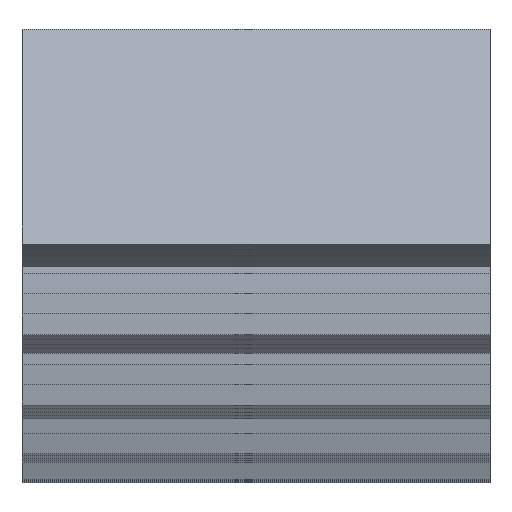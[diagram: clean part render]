
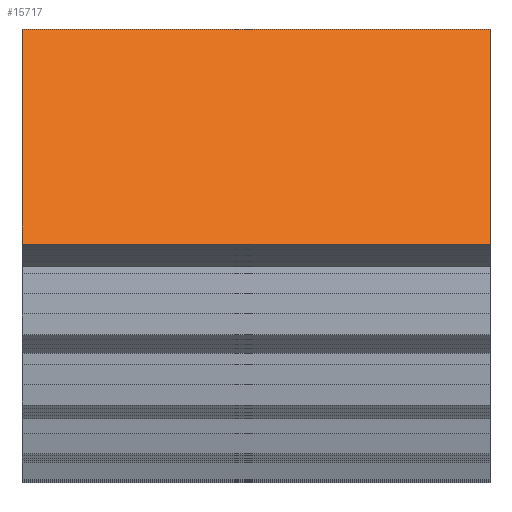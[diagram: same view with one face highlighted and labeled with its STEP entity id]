
A CAD part, top view. The second image highlights one B-rep face of the part: STEP entity #15717.
In plain terms, the highlighted planar face has unit normal (0, 0.529, 0.849).
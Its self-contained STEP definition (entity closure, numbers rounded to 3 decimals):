
#32 = PLANE('',#33);
#33 = AXIS2_PLACEMENT_3D('',#34,#35,#36);
#34 = CARTESIAN_POINT('',(6.5,0.,0.));
#35 = DIRECTION('',(1.,0.,0.));
#36 = DIRECTION('',(0.,0.998,-0.06));
#111 = VERTEX_POINT('',#112);
#112 = CARTESIAN_POINT('',(6.5,-28.858,17.978));
#131 = CYLINDRICAL_SURFACE('',#132,34.);
#132 = AXIS2_PLACEMENT_3D('',#133,#134,#135);
#133 = CARTESIAN_POINT('',(5.5,0.,0.));
#134 = DIRECTION('',(-1.,-0.,-0.));
#135 = DIRECTION('',(0.,1.,0.));
#143 = EDGE_CURVE('',#144,#111,#146,.T.);
#144 = VERTEX_POINT('',#145);
#145 = CARTESIAN_POINT('',(6.5,-34.375,21.414));
#146 = SURFACE_CURVE('',#147,(#151,#157),.PCURVE_S1.);
#147 = LINE('',#148,#149);
#148 = CARTESIAN_POINT('',(6.5,0.,0.));
#149 = VECTOR('',#150,1.);
#150 = DIRECTION('',(0.,0.849,-0.529));
#151 = PCURVE('',#32,#152);
#152 = DEFINITIONAL_REPRESENTATION('',(#153),#156);
#153 = B_SPLINE_CURVE_WITH_KNOTS('',1,(#154,#155),.UNSPECIFIED.,.F.,.F.,
  (2,2),(-46.067,0.),.PIECEWISE_BEZIER_KNOTS.);
#154 = CARTESIAN_POINT('',(-40.5,21.953));
#155 = CARTESIAN_POINT('',(0.,0.));
#156 = ( GEOMETRIC_REPRESENTATION_CONTEXT(2) 
PARAMETRIC_REPRESENTATION_CONTEXT() REPRESENTATION_CONTEXT('2D SPACE',''
  ) );
#157 = PCURVE('',#158,#163);
#158 = PLANE('',#159);
#159 = AXIS2_PLACEMENT_3D('',#160,#161,#162);
#160 = CARTESIAN_POINT('',(5.5,0.,0.));
#161 = DIRECTION('',(0.,-0.529,-0.849));
#162 = DIRECTION('',(0.,-0.849,0.529));
#163 = DEFINITIONAL_REPRESENTATION('',(#164),#167);
#164 = B_SPLINE_CURVE_WITH_KNOTS('',1,(#165,#166),.UNSPECIFIED.,.F.,.F.,
  (2,2),(-46.067,0.),.PIECEWISE_BEZIER_KNOTS.);
#165 = CARTESIAN_POINT('',(46.067,-1.));
#166 = CARTESIAN_POINT('',(0.,-1.));
#167 = ( GEOMETRIC_REPRESENTATION_CONTEXT(2) 
PARAMETRIC_REPRESENTATION_CONTEXT() REPRESENTATION_CONTEXT('2D SPACE',''
  ) );
#185 = PLANE('',#186);
#186 = AXIS2_PLACEMENT_3D('',#187,#188,#189);
#187 = CARTESIAN_POINT('',(6.5,-34.354,21.449));
#188 = DIRECTION('',(0.,0.85,-0.527));
#189 = DIRECTION('',(0.,-0.527,-0.85));
#5837 = PLANE('',#5838);
#5838 = AXIS2_PLACEMENT_3D('',#5839,#5840,#5841);
#5839 = CARTESIAN_POINT('',(18.5,0.,0.)
  );
#5840 = DIRECTION('',(1.,0.,0.));
#5841 = DIRECTION('',(0.,0.998,-0.06));
#15675 = EDGE_CURVE('',#15676,#144,#15678,.T.);
#15676 = VERTEX_POINT('',#15677);
#15677 = CARTESIAN_POINT('',(18.5,-34.375,21.414));
#15678 = SURFACE_CURVE('',#15679,(#15683,#15689),.PCURVE_S1.);
#15679 = LINE('',#15680,#15681);
#15680 = CARTESIAN_POINT('',(6.,-34.375,21.414));
#15681 = VECTOR('',#15682,1.);
#15682 = DIRECTION('',(-1.,0.,0.));
#15683 = PCURVE('',#185,#15684);
#15684 = DEFINITIONAL_REPRESENTATION('',(#15685),#15688);
#15685 = B_SPLINE_CURVE_WITH_KNOTS('',1,(#15686,#15687),.UNSPECIFIED.,
  .F.,.F.,(2,2),(-12.5,-0.5),.PIECEWISE_BEZIER_KNOTS.);
#15686 = CARTESIAN_POINT('',(0.041,-12.));
#15687 = CARTESIAN_POINT('',(0.041,0.));
#15688 = ( GEOMETRIC_REPRESENTATION_CONTEXT(2) 
PARAMETRIC_REPRESENTATION_CONTEXT() REPRESENTATION_CONTEXT('2D SPACE',''
  ) );
#15689 = PCURVE('',#158,#15690);
#15690 = DEFINITIONAL_REPRESENTATION('',(#15691),#15694);
#15691 = B_SPLINE_CURVE_WITH_KNOTS('',1,(#15692,#15693),.UNSPECIFIED.,
  .F.,.F.,(2,2),(-12.5,-0.5),.PIECEWISE_BEZIER_KNOTS.);
#15692 = CARTESIAN_POINT('',(40.5,-13.));
#15693 = CARTESIAN_POINT('',(40.5,-1.));
#15694 = ( GEOMETRIC_REPRESENTATION_CONTEXT(2) 
PARAMETRIC_REPRESENTATION_CONTEXT() REPRESENTATION_CONTEXT('2D SPACE',''
  ) );
#15717 = ADVANCED_FACE('',(#15718),#158,.F.);
#15718 = FACE_BOUND('',#15719,.F.);
#15719 = EDGE_LOOP('',(#15720,#15721,#15722,#15743));
#15720 = ORIENTED_EDGE('',*,*,#15675,.T.);
#15721 = ORIENTED_EDGE('',*,*,#143,.T.);
#15722 = ORIENTED_EDGE('',*,*,#15723,.F.);
#15723 = EDGE_CURVE('',#15724,#111,#15726,.T.);
#15724 = VERTEX_POINT('',#15725);
#15725 = CARTESIAN_POINT('',(18.5,-28.858,17.978));
#15726 = SURFACE_CURVE('',#15727,(#15731,#15737),.PCURVE_S1.);
#15727 = LINE('',#15728,#15729);
#15728 = CARTESIAN_POINT('',(5.5,-28.858,17.978));
#15729 = VECTOR('',#15730,1.);
#15730 = DIRECTION('',(-1.,-0.,-0.));
#15731 = PCURVE('',#158,#15732);
#15732 = DEFINITIONAL_REPRESENTATION('',(#15733),#15736);
#15733 = B_SPLINE_CURVE_WITH_KNOTS('',1,(#15734,#15735),.UNSPECIFIED.,
  .F.,.F.,(2,2),(-14.,0.),
  .PIECEWISE_BEZIER_KNOTS.);
#15734 = CARTESIAN_POINT('',(34.,-14.));
#15735 = CARTESIAN_POINT('',(34.,0.));
#15736 = ( GEOMETRIC_REPRESENTATION_CONTEXT(2) 
PARAMETRIC_REPRESENTATION_CONTEXT() REPRESENTATION_CONTEXT('2D SPACE',''
  ) );
#15737 = PCURVE('',#131,#15738);
#15738 = DEFINITIONAL_REPRESENTATION('',(#15739),#15742);
#15739 = B_SPLINE_CURVE_WITH_KNOTS('',1,(#15740,#15741),.UNSPECIFIED.,
  .F.,.F.,(2,2),(-14.,0.),
  .PIECEWISE_BEZIER_KNOTS.);
#15740 = CARTESIAN_POINT('',(-2.584,-14.));
#15741 = CARTESIAN_POINT('',(-2.584,0.));
#15742 = ( GEOMETRIC_REPRESENTATION_CONTEXT(2) 
PARAMETRIC_REPRESENTATION_CONTEXT() REPRESENTATION_CONTEXT('2D SPACE',''
  ) );
#15743 = ORIENTED_EDGE('',*,*,#15744,.F.);
#15744 = EDGE_CURVE('',#15676,#15724,#15745,.T.);
#15745 = SURFACE_CURVE('',#15746,(#15750,#15756),.PCURVE_S1.);
#15746 = LINE('',#15747,#15748);
#15747 = CARTESIAN_POINT('',(18.5,0.,0.)
  );
#15748 = VECTOR('',#15749,1.);
#15749 = DIRECTION('',(0.,0.849,-0.529));
#15750 = PCURVE('',#158,#15751);
#15751 = DEFINITIONAL_REPRESENTATION('',(#15752),#15755);
#15752 = B_SPLINE_CURVE_WITH_KNOTS('',1,(#15753,#15754),.UNSPECIFIED.,
  .F.,.F.,(2,2),(-46.067,0.),
  .PIECEWISE_BEZIER_KNOTS.);
#15753 = CARTESIAN_POINT('',(46.067,-13.));
#15754 = CARTESIAN_POINT('',(0.,-13.));
#15755 = ( GEOMETRIC_REPRESENTATION_CONTEXT(2) 
PARAMETRIC_REPRESENTATION_CONTEXT() REPRESENTATION_CONTEXT('2D SPACE',''
  ) );
#15756 = PCURVE('',#5837,#15757);
#15757 = DEFINITIONAL_REPRESENTATION('',(#15758),#15761);
#15758 = B_SPLINE_CURVE_WITH_KNOTS('',1,(#15759,#15760),.UNSPECIFIED.,
  .F.,.F.,(2,2),(-46.067,0.),
  .PIECEWISE_BEZIER_KNOTS.);
#15759 = CARTESIAN_POINT('',(-40.5,21.953));
#15760 = CARTESIAN_POINT('',(0.,0.));
#15761 = ( GEOMETRIC_REPRESENTATION_CONTEXT(2) 
PARAMETRIC_REPRESENTATION_CONTEXT() REPRESENTATION_CONTEXT('2D SPACE',''
  ) );
